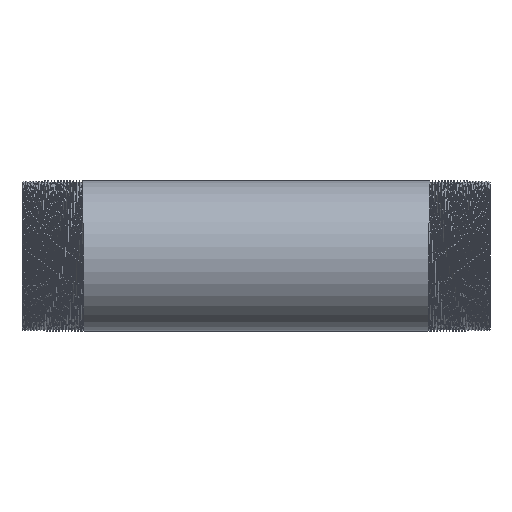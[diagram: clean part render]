
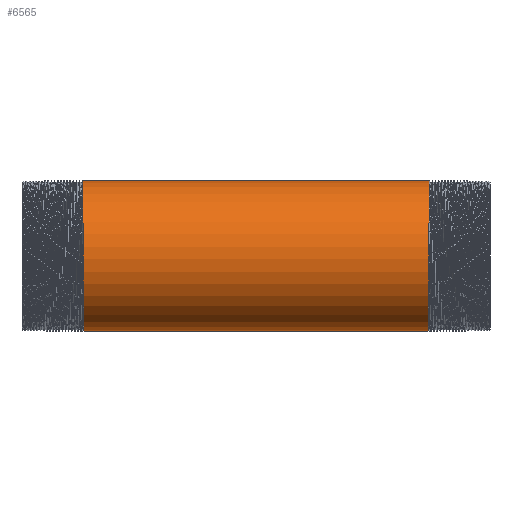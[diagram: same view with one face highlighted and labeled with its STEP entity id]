
A CAD part, front view. The second image highlights one B-rep face of the part: STEP entity #6565.
In plain terms, the highlighted cylindrical face has radius 24.15 mm (diameter 48.3 mm), a partial arc.
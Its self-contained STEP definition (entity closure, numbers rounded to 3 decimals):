
#432 = EDGE_CURVE ( 'NONE', #16317, #13439, #8105, .T. ) ;
#669 = VERTEX_POINT ( 'NONE', #14480 ) ;
#1100 = DIRECTION ( 'NONE',  ( -1., 0., 0. ) ) ;
#1725 = CARTESIAN_POINT ( 'NONE',  ( -55.375, -24.15, 0. ) ) ;
#1809 = CARTESIAN_POINT ( 'NONE',  ( -55.313, -24.15, -10.003 ) ) ;
#3270 = VECTOR ( 'NONE', #10812, 1000. ) ;
#3336 = CARTESIAN_POINT ( 'NONE',  ( 55.25, -17.077, -17.077 ) ) ;
#3593 = VERTEX_POINT ( 'NONE', #12402 ) ;
#4686 = CARTESIAN_POINT ( 'NONE',  ( 55.313, -24.15, -10.003 ) ) ;
#4831 = EDGE_LOOP ( 'NONE', ( #17477, #13139, #10479, #17103 ) ) ;
#5352 = CYLINDRICAL_SURFACE ( 'NONE', #8423, 24.15 ) ;
#6131 = CARTESIAN_POINT ( 'NONE',  ( 55.188, -10.003, -24.15 ) ) ;
#6302 = CARTESIAN_POINT ( 'NONE',  ( 55.125, 0., -24.15 ) ) ;
#6565 = ADVANCED_FACE ( 'NONE', ( #9674 ), #5352, .T. ) ;
#7278 = CARTESIAN_POINT ( 'NONE',  ( -55.5, -17.077, 17.077 ) ) ;
#7925 =( BOUNDED_CURVE ( )  B_SPLINE_CURVE ( 2, ( #6302, #6131, #3336, #4686, #10161, #15636, #11774, #10422, #13652 ),
 .UNSPECIFIED., .F., .F. ) 
 B_SPLINE_CURVE_WITH_KNOTS ( ( 3, 2, 2, 2, 3 ),
 ( 0., 0.005, 0.01, 0.016, 0.021 ),
 .UNSPECIFIED. ) 
 CURVE ( )  GEOMETRIC_REPRESENTATION_ITEM ( )  RATIONAL_B_SPLINE_CURVE ( ( 1., 0.924, 1., 0.924, 1., 0.924, 1., 0.924, 1. ) ) 
 REPRESENTATION_ITEM ( '' )  );
#8105 = LINE ( 'NONE', #13397, #15999 ) ;
#8423 = AXIS2_PLACEMENT_3D ( 'NONE', #17563, #9309, #15150 ) ;
#9309 = DIRECTION ( 'NONE',  ( -1., 0., 0. ) ) ;
#9563 = LINE ( 'NONE', #12529, #3270 ) ;
#9623 = CARTESIAN_POINT ( 'NONE',  ( -55.188, -10.003, -24.15 ) ) ;
#9674 = FACE_OUTER_BOUND ( 'NONE', #4831, .T. ) ;
#9978 = EDGE_CURVE ( 'NONE', #3593, #13439, #12748, .T. ) ;
#10161 = CARTESIAN_POINT ( 'NONE',  ( 55.375, -24.15, 0. ) ) ;
#10422 = CARTESIAN_POINT ( 'NONE',  ( 55.563, -10.003, 24.15 ) ) ;
#10479 = ORIENTED_EDGE ( 'NONE', *, *, #432, .T. ) ;
#10812 = DIRECTION ( 'NONE',  ( -1., 0., 0. ) ) ;
#11407 = CARTESIAN_POINT ( 'NONE',  ( -55.563, -10.003, 24.15 ) ) ;
#11432 = CARTESIAN_POINT ( 'NONE',  ( -55.625, 0., 24.15 ) ) ;
#11465 = CARTESIAN_POINT ( 'NONE',  ( 55.625, 0., 24.15 ) ) ;
#11766 = EDGE_CURVE ( 'NONE', #669, #3593, #9563, .T. ) ;
#11774 = CARTESIAN_POINT ( 'NONE',  ( 55.5, -17.077, 17.077 ) ) ;
#12402 = CARTESIAN_POINT ( 'NONE',  ( -55.125, 0., -24.15 ) ) ;
#12404 = CARTESIAN_POINT ( 'NONE',  ( -55.125, 0., -24.15 ) ) ;
#12529 = CARTESIAN_POINT ( 'NONE',  ( -149.494, 0., -24.15 ) ) ;
#12748 =( BOUNDED_CURVE ( )  B_SPLINE_CURVE ( 2, ( #12404, #9623, #13842, #1809, #1725, #16803, #7278, #11407, #13751 ),
 .UNSPECIFIED., .F., .T. ) 
 B_SPLINE_CURVE_WITH_KNOTS ( ( 3, 2, 2, 2, 3 ),
 ( 0., 0.005, 0.01, 0.016, 0.021 ),
 .UNSPECIFIED. ) 
 CURVE ( )  GEOMETRIC_REPRESENTATION_ITEM ( )  RATIONAL_B_SPLINE_CURVE ( ( 1., 0.924, 1., 0.924, 1., 0.924, 1., 0.924, 1. ) ) 
 REPRESENTATION_ITEM ( '' )  );
#13139 = ORIENTED_EDGE ( 'NONE', *, *, #17433, .T. ) ;
#13397 = CARTESIAN_POINT ( 'NONE',  ( -149.494, 0., 24.15 ) ) ;
#13439 = VERTEX_POINT ( 'NONE', #11432 ) ;
#13652 = CARTESIAN_POINT ( 'NONE',  ( 55.625, 0., 24.15 ) ) ;
#13751 = CARTESIAN_POINT ( 'NONE',  ( -55.625, 0., 24.15 ) ) ;
#13842 = CARTESIAN_POINT ( 'NONE',  ( -55.25, -17.077, -17.077 ) ) ;
#14480 = CARTESIAN_POINT ( 'NONE',  ( 55.125, 0., -24.15 ) ) ;
#15150 = DIRECTION ( 'NONE',  ( 0., 0., 1. ) ) ;
#15636 = CARTESIAN_POINT ( 'NONE',  ( 55.438, -24.15, 10.003 ) ) ;
#15999 = VECTOR ( 'NONE', #1100, 1000. ) ;
#16317 = VERTEX_POINT ( 'NONE', #11465 ) ;
#16803 = CARTESIAN_POINT ( 'NONE',  ( -55.438, -24.15, 10.003 ) ) ;
#17103 = ORIENTED_EDGE ( 'NONE', *, *, #9978, .F. ) ;
#17433 = EDGE_CURVE ( 'NONE', #669, #16317, #7925, .T. ) ;
#17477 = ORIENTED_EDGE ( 'NONE', *, *, #11766, .F. ) ;
#17563 = CARTESIAN_POINT ( 'NONE',  ( -149.494, 0., 0. ) ) ;
